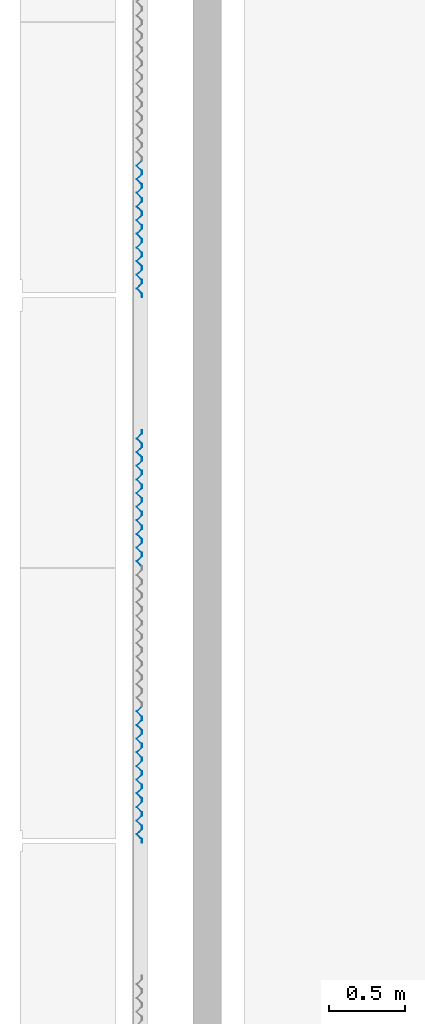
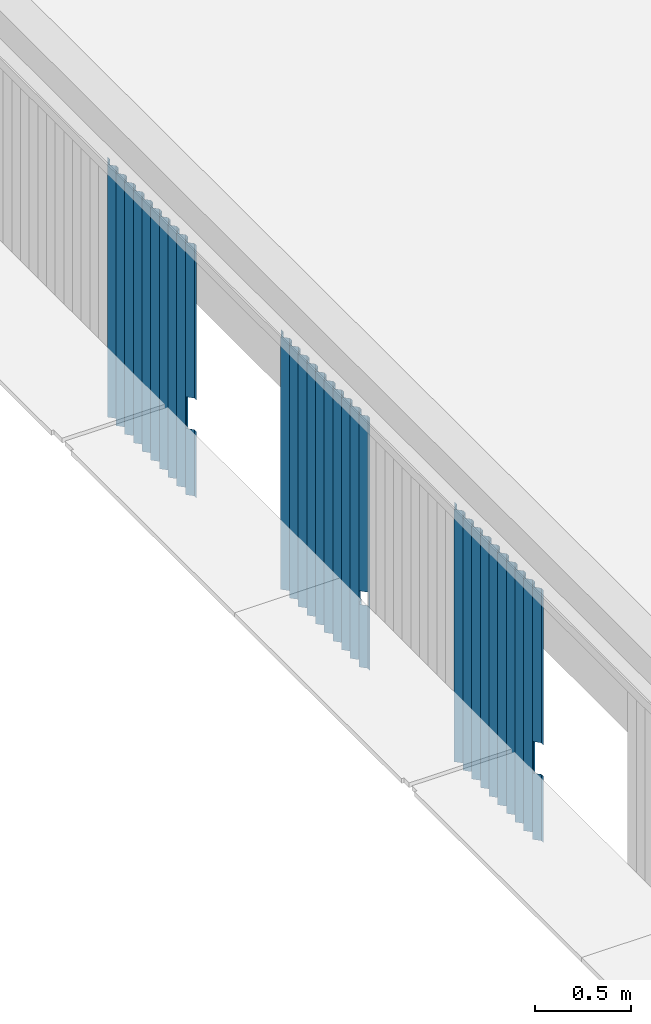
# One storey, part 20 of 37: 3 walls.
"""IFC4X3_ADD2 building model written with IfcOpenShell, lengths in millimetres."""

from ifc_helpers import new_model, si_unit, direction, frame, origin_with_axes, place, context, subcontext, project, spatial, polygons, element, save


model = new_model("IFC4X3_ADD2")

# Units and contexts
model_context = context("Model", 3, precision=1e-05, world=origin_with_axes(), true_north=direction((0.0, 1.0)))
body_context = subcontext(model_context, "Body", "Model", "MODEL_VIEW")
ifc_project = project(units=[si_unit("LENGTHUNIT", "METRE", prefix="MILLI"), si_unit("AREAUNIT", "SQUARE_METRE"), si_unit("VOLUMEUNIT", "CUBIC_METRE"), si_unit("PLANEANGLEUNIT", "RADIAN"), si_unit("TIMEUNIT", "SECOND"), si_unit("MASSUNIT", "GRAM")], contexts=[model_context])

# Site, building, storey
site_placement = place(None, origin_with_axes())
site = spatial("IfcSite", under=ifc_project, at=site_placement, Name="Site", CompositionType="ELEMENT")
building_placement = place(site_placement, origin_with_axes())
building = spatial("IfcBuilding", under=site, at=building_placement, Name="IFC Building Story")
storey_placement = place(building_placement, frame((0.0, 0.0, 14400.0), z_axis=(0.0, 0.0, 1.0), x_axis=(1.0, 0.0, 0.0)))
storey = spatial("IfcBuildingStorey", under=building, at=storey_placement, Name="040", Elevation=14400.0)

# Walls
wall_1_placement = place(storey_placement, frame((0.0, 0.0, -14400.0), z_axis=(0.0, 0.0, 1.0), x_axis=(1.0, 0.0, 0.0)))
element("IfcWall", 1, at=wall_1_placement, inside=storey, Name="BB_07.10_Gevelbekleding_PuntProfiel, 900 mm, console rechts_GMO:900 x 1600 mm", ObjectType="BB_07.10_Gevelbekleding_PuntProfiel, 900 mm, console rechts_GMO:900 x 1600 mm", PredefinedType="NOTDEFINED", context=body_context, shape_type="Tessellation", body=[
    polygons([(-45734.99999999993, 9090.00000000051, 14060.0), (-45733.58578643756, 9090.00000000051, 14060.0), (-45748.58578643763, 9075.000000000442, 14060.0), (-45715.0, 9041.414213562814, 14060.0), (-45715.00000000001, 9018.58578643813, 14060.0), (-45716.0, 9019.00000000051, 14060.0), (-45715.99999999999, 9041.000000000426, 14060.0), (-45750.0, 9075.000000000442, 14060.0), (-45734.99999999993, 9090.00000000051, 13860.0), (-45733.58578643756, 9090.00000000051, 13860.0), (-45750.00000000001, 9075.000000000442, 13860.0), (-45716.0, 9041.000000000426, 13860.0), (-45716.0, 9019.00000000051, 13860.0), (-45715.0, 9018.58578643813, 13860.0), (-45715.0, 9041.414213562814, 13860.0), (-45748.58578643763, 9075.000000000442, 13860.0), (-45716.0, 9851.000000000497, 15040.0), (-45716.0, 9829.000000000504, 15040.0), (-45750.0, 9795.000000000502, 15040.0), (-45716.0, 9761.000000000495, 15040.0), (-45716.0, 9739.000000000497, 15040.0), (-45750.0, 9705.000000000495, 15040.0), (-45716.0, 9671.000000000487, 15040.0), (-45716.0, 9649.000000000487, 15040.0), (-45750.00000000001, 9615.000000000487, 15040.0), (-45716.0, 9581.000000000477, 15040.0), (-45716.0, 9559.000000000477, 15040.0), (-45750.00000000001, 9525.000000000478, 15040.0), (-45716.0, 9491.000000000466, 15040.0), (-45716.0, 9469.000000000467, 15040.0), (-45750.00000000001, 9435.000000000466, 15040.0), (-45716.0, 9401.000000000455, 15040.0), (-45716.0, 9379.000000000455, 15040.0), (-45750.00000000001, 9345.000000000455, 15040.0), (-45716.0, 9311.000000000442, 15040.0), (-45716.0, 9289.000000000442, 15040.0), (-45750.00000000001, 9255.000000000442, 15040.0), (-45716.0, 9221.00000000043, 15040.0), (-45716.0, 9199.000000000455, 15040.0), (-45750.00000000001, 9165.000000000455, 15040.0), (-45716.0, 9131.00000000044, 15040.0), (-45716.0, 9109.000000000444, 15040.0), (-45750.00000000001, 9075.000000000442, 15040.0), (-45716.0, 9041.000000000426, 15040.0), (-45716.0, 9019.00000000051, 15040.0), (-45715.00000000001, 9018.58578643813, 15040.0), (-45715.00000000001, 9041.414213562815, 15040.0), (-45748.58578643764, 9075.000000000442, 15040.0), (-45715.00000000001, 9108.585786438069, 15040.0), (-45715.00000000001, 9131.414213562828, 15040.0), (-45748.58578643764, 9165.000000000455, 15040.0), (-45715.00000000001, 9198.585786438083, 15040.0), (-45715.00000000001, 9221.414213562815, 15040.0), (-45748.58578643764, 9255.000000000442, 15040.0), (-45715.00000000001, 9288.585786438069, 15040.0), (-45715.00000000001, 9311.414213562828, 15040.0), (-45748.58578643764, 9345.000000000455, 15040.0), (-45715.00000000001, 9378.585786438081, 15040.0), (-45715.00000000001, 9401.414213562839, 15040.0), (-45748.58578643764, 9435.000000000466, 15040.0), (-45715.00000000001, 9468.585786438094, 15040.0), (-45715.00000000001, 9491.41421356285, 15040.0), (-45748.58578643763, 9525.000000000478, 15040.0), (-45715.00000000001, 9558.585786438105, 15040.0), (-45715.00000000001, 9581.41421356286, 15040.0), (-45748.58578643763, 9615.000000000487, 15040.0), (-45715.00000000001, 9648.585786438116, 15040.0), (-45715.00000000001, 9671.414213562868, 15040.0), (-45748.58578643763, 9705.000000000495, 15040.0), (-45715.0, 9738.585786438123, 15040.0), (-45715.0, 9761.414213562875, 15040.0), (-45748.58578643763, 9795.000000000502, 15040.0), (-45715.0, 9828.585786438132, 15040.0), (-45715.0, 9851.414213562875, 15040.0), (-45748.58578643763, 9885.000000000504, 15040.0), (-45715.0, 9918.58578643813, 15040.0), (-45715.0, 9941.414213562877, 15040.0), (-45716.0, 9941.000000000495, 15040.0), (-45716.0, 9919.000000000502, 15040.0), (-45750.0, 9885.000000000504, 15040.0), (-45716.0, 9851.000000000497, 13440.0), (-45750.0, 9885.000000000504, 13440.0), (-45716.0, 9919.000000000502, 13440.0), (-45716.0, 9941.000000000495, 13440.0), (-45715.0, 9941.414213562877, 13440.0), (-45715.0, 9918.58578643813, 13440.0), (-45748.58578643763, 9885.000000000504, 13440.0), (-45715.0, 9851.414213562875, 13440.0), (-45715.0, 9828.585786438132, 13440.0), (-45748.58578643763, 9795.000000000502, 13440.0), (-45715.0, 9761.414213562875, 13440.0), (-45715.0, 9738.585786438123, 13440.0), (-45748.58578643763, 9705.000000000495, 13440.0), (-45715.00000000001, 9671.414213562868, 13440.0), (-45715.00000000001, 9648.585786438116, 13440.0), (-45748.58578643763, 9615.000000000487, 13440.0), (-45715.00000000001, 9581.41421356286, 13440.0), (-45715.00000000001, 9558.585786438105, 13440.0), (-45748.58578643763, 9525.000000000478, 13440.0), (-45715.00000000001, 9491.41421356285, 13440.0), (-45715.00000000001, 9468.585786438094, 13440.0), (-45748.58578643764, 9435.000000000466, 13440.0), (-45715.00000000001, 9401.414213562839, 13440.0), (-45715.00000000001, 9378.585786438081, 13440.0), (-45748.58578643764, 9345.000000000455, 13440.0), (-45715.00000000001, 9311.414213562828, 13440.0), (-45715.00000000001, 9288.585786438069, 13440.0), (-45748.58578643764, 9255.000000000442, 13440.0), (-45715.00000000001, 9221.414213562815, 13440.0), (-45715.00000000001, 9198.585786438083, 13440.0), (-45748.58578643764, 9165.000000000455, 13440.0), (-45715.00000000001, 9131.414213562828, 13440.0), (-45715.00000000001, 9108.585786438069, 13440.0), (-45748.58578643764, 9075.000000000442, 13440.0), (-45715.00000000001, 9041.414213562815, 13440.0), (-45715.00000000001, 9018.58578643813, 13440.0), (-45716.0, 9019.00000000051, 13440.0), (-45716.0, 9041.000000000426, 13440.0), (-45750.00000000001, 9075.000000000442, 13440.0), (-45716.0, 9109.000000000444, 13440.0), (-45716.0, 9131.00000000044, 13440.0), (-45750.00000000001, 9165.000000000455, 13440.0), (-45716.0, 9199.000000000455, 13440.0), (-45716.0, 9221.00000000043, 13440.0), (-45750.00000000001, 9255.000000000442, 13440.0), (-45716.0, 9289.000000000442, 13440.0), (-45716.0, 9311.000000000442, 13440.0), (-45750.00000000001, 9345.000000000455, 13440.0), (-45716.0, 9379.000000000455, 13440.0), (-45716.0, 9401.000000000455, 13440.0), (-45750.00000000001, 9435.000000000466, 13440.0), (-45716.0, 9469.000000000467, 13440.0), (-45716.0, 9491.000000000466, 13440.0), (-45750.00000000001, 9525.000000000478, 13440.0), (-45716.0, 9559.000000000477, 13440.0), (-45716.0, 9581.000000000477, 13440.0), (-45750.00000000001, 9615.000000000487, 13440.0), (-45716.0, 9649.000000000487, 13440.0), (-45716.0, 9671.000000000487, 13440.0), (-45750.0, 9705.000000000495, 13440.0), (-45716.0, 9739.000000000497, 13440.0), (-45716.0, 9761.000000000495, 13440.0), (-45750.0, 9795.000000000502, 13440.0), (-45716.0, 9829.000000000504, 13440.0)], [[[7, 8, 3]], [[7, 3, 4]], [[4, 5, 6]], [[4, 6, 7]], [[8, 1, 2]], [[8, 2, 3]], [[2, 1, 9, 10]], [[12, 13, 14]], [[12, 14, 15]], [[16, 10, 9]], [[16, 9, 11]], [[11, 12, 15]], [[11, 15, 16]], [[44, 45, 46]], [[44, 46, 47]], [[48, 49, 42]], [[48, 42, 43]], [[43, 44, 47]], [[43, 47, 48]], [[49, 50, 41]], [[49, 41, 42]], [[51, 52, 39]], [[51, 39, 40]], [[40, 41, 50]], [[40, 50, 51]], [[52, 53, 38]], [[52, 38, 39]], [[54, 55, 36]], [[54, 36, 37]], [[37, 38, 53]], [[37, 53, 54]], [[55, 56, 35]], [[55, 35, 36]], [[57, 58, 33]], [[57, 33, 34]], [[34, 35, 56]], [[34, 56, 57]], [[58, 59, 32]], [[58, 32, 33]], [[60, 61, 30]], [[60, 30, 31]], [[31, 32, 59]], [[31, 59, 60]], [[61, 62, 29]], [[61, 29, 30]], [[63, 64, 27]], [[63, 27, 28]], [[28, 29, 62]], [[28, 62, 63]], [[64, 65, 26]], [[64, 26, 27]], [[66, 67, 24]], [[66, 24, 25]], [[25, 26, 65]], [[25, 65, 66]], [[67, 68, 23]], [[67, 23, 24]], [[69, 70, 21]], [[69, 21, 22]], [[22, 23, 68]], [[22, 68, 69]], [[70, 71, 20]], [[70, 20, 21]], [[72, 73, 18]], [[72, 18, 19]], [[19, 20, 71]], [[19, 71, 72]], [[73, 74, 17]], [[73, 17, 18]], [[79, 80, 75]], [[79, 75, 76]], [[76, 77, 78]], [[76, 78, 79]], [[80, 17, 74]], [[80, 74, 75]], [[83, 84, 85]], [[83, 85, 86]], [[87, 88, 81]], [[87, 81, 82]], [[82, 83, 86]], [[82, 86, 87]], [[118, 119, 114]], [[118, 114, 115]], [[115, 116, 117]], [[115, 117, 118]], [[121, 122, 111]], [[121, 111, 112]], [[112, 113, 120]], [[112, 120, 121]], [[113, 114, 119]], [[113, 119, 120]], [[124, 125, 108]], [[124, 108, 109]], [[109, 110, 123]], [[109, 123, 124]], [[110, 111, 122]], [[110, 122, 123]], [[127, 128, 105]], [[127, 105, 106]], [[106, 107, 126]], [[106, 126, 127]], [[107, 108, 125]], [[107, 125, 126]], [[130, 131, 102]], [[130, 102, 103]], [[103, 104, 129]], [[103, 129, 130]], [[104, 105, 128]], [[104, 128, 129]], [[133, 134, 99]], [[133, 99, 100]], [[100, 101, 132]], [[100, 132, 133]], [[101, 102, 131]], [[101, 131, 132]], [[136, 137, 96]], [[136, 96, 97]], [[97, 98, 135]], [[97, 135, 136]], [[98, 99, 134]], [[98, 134, 135]], [[139, 140, 93]], [[139, 93, 94]], [[94, 95, 138]], [[94, 138, 139]], [[95, 96, 137]], [[95, 137, 138]], [[142, 143, 90]], [[142, 90, 91]], [[91, 92, 141]], [[91, 141, 142]], [[92, 93, 140]], [[92, 140, 141]], [[144, 81, 88]], [[144, 88, 89]], [[89, 90, 143]], [[89, 143, 144]], [[18, 17, 81, 144]], [[19, 18, 144, 143]], [[20, 19, 143, 142]], [[21, 20, 142, 141]], [[22, 21, 141, 140]], [[23, 22, 140, 139]], [[24, 23, 139, 138]], [[25, 24, 138, 137]], [[26, 25, 137, 136]], [[27, 26, 136, 135]], [[28, 27, 135, 134]], [[29, 28, 134, 133]], [[30, 29, 133, 132]], [[31, 30, 132, 131]], [[32, 31, 131, 130]], [[33, 32, 130, 129]], [[34, 33, 129, 128]], [[35, 34, 128, 127]], [[36, 35, 127, 126]], [[37, 36, 126, 125]], [[38, 37, 125, 124]], [[54, 53, 109, 108]], [[55, 54, 108, 107]], [[56, 55, 107, 106]], [[57, 56, 106, 105]], [[58, 57, 105, 104]], [[59, 58, 104, 103]], [[60, 59, 103, 102]], [[61, 60, 102, 101]], [[62, 61, 101, 100]], [[63, 62, 100, 99]], [[64, 63, 99, 98]], [[65, 64, 98, 97]], [[66, 65, 97, 96]], [[67, 66, 96, 95]], [[68, 67, 95, 94]], [[69, 68, 94, 93]], [[70, 69, 93, 92]], [[71, 70, 92, 91]], [[72, 71, 91, 90]], [[73, 72, 90, 89]], [[74, 73, 89, 88]], [[80, 79, 83, 82]], [[17, 80, 82, 81]], [[39, 38, 124, 123]], [[40, 39, 123, 122]], [[41, 40, 122, 121]], [[42, 41, 121, 120]], [[1, 8, 43]], [[1, 43, 42]], [[42, 9, 1]], [[42, 120, 9]], [[120, 119, 11]], [[120, 11, 9]], [[44, 43, 8, 7]], [[45, 44, 7, 6]], [[47, 46, 5, 4]], [[48, 47, 4, 3]], [[10, 16, 114]], [[10, 114, 113]], [[113, 2, 10]], [[2, 113, 49]], [[49, 48, 2]], [[48, 3, 2]], [[50, 49, 113, 112]], [[51, 50, 112, 111]], [[52, 51, 111, 110]], [[53, 52, 110, 109]], [[75, 74, 88, 87]], [[76, 75, 87, 86]], [[46, 45, 6, 5]], [[77, 76, 86, 85]], [[78, 77, 85, 84]], [[79, 78, 84, 83]], [[117, 116, 14, 13]], [[115, 114, 16, 15]], [[116, 115, 15, 14]], [[118, 117, 13, 12]], [[119, 118, 12, 11]]]),
])
wall_2_placement = place(storey_placement, frame((0.0, 0.0, -14400.0), z_axis=(0.0, 0.0, 1.0), x_axis=(1.0, 0.0, 0.0)))
element("IfcWall", 2, at=wall_2_placement, inside=storey, Name="BB_07.10_Gevelbekleding_PuntProfiel, 900 mm, vol_GMO:900 x 1600 mm", ObjectType="BB_07.10_Gevelbekleding_PuntProfiel, 900 mm, vol_GMO:900 x 1600 mm", PredefinedType="NOTDEFINED", context=body_context, shape_type="Tessellation", body=[
    polygons([(-45715.99999999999, 11651.00000000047, 15040.0), (-45715.99999999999, 11629.00000000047, 15040.0), (-45749.99999999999, 11595.00000000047, 15040.0), (-45715.99999999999, 11561.00000000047, 15040.0), (-45715.99999999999, 11539.00000000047, 15040.0), (-45749.99999999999, 11505.00000000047, 15040.0), (-45715.99999999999, 11471.00000000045, 15040.0), (-45715.99999999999, 11449.00000000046, 15040.0), (-45750.0, 11415.00000000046, 15040.0), (-45715.99999999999, 11381.00000000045, 15040.0), (-45715.99999999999, 11359.00000000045, 15040.0), (-45750.0, 11325.00000000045, 15040.0), (-45715.99999999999, 11291.00000000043, 15040.0), (-45715.99999999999, 11269.00000000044, 15040.0), (-45750.0, 11235.00000000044, 15040.0), (-45715.99999999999, 11201.00000000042, 15040.0), (-45715.99999999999, 11179.00000000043, 15040.0), (-45750.0, 11145.00000000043, 15040.0), (-45715.99999999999, 11111.00000000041, 15040.0), (-45715.99999999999, 11089.00000000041, 15040.0), (-45750.0, 11055.00000000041, 15040.0), (-45715.99999999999, 11021.0000000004, 15040.0), (-45715.99999999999, 10999.00000000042, 15040.0), (-45750.0, 10965.00000000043, 15040.0), (-45715.99999999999, 10931.00000000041, 15040.0), (-45715.99999999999, 10909.00000000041, 15040.0), (-45750.0, 10875.00000000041, 15040.0), (-45715.99999999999, 10841.0000000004, 15040.0), (-45715.99999999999, 10819.00000000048, 15040.0), (-45715.0, 10818.5857864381, 15040.0), (-45715.0, 10841.41421356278, 15040.0), (-45748.58578643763, 10875.00000000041, 15040.0), (-45715.0, 10908.58578643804, 15040.0), (-45715.0, 10931.4142135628, 15040.0), (-45748.58578643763, 10965.00000000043, 15040.0), (-45715.0, 10998.58578643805, 15040.0), (-45715.0, 11021.41421356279, 15040.0), (-45748.58578643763, 11055.00000000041, 15040.0), (-45715.0, 11088.58578643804, 15040.0), (-45715.0, 11111.4142135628, 15040.0), (-45748.58578643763, 11145.00000000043, 15040.0), (-45715.0, 11178.58578643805, 15040.0), (-45715.0, 11201.41421356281, 15040.0), (-45748.58578643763, 11235.00000000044, 15040.0), (-45715.0, 11268.58578643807, 15040.0), (-45715.0, 11291.41421356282, 15040.0), (-45748.58578643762, 11325.00000000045, 15040.0), (-45715.0, 11358.58578643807, 15040.0), (-45715.0, 11381.41421356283, 15040.0), (-45748.58578643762, 11415.00000000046, 15040.0), (-45715.0, 11448.58578643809, 15040.0), (-45715.0, 11471.41421356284, 15040.0), (-45748.58578643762, 11505.00000000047, 15040.0), (-45714.99999999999, 11538.58578643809, 15040.0), (-45714.99999999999, 11561.41421356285, 15040.0), (-45748.58578643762, 11595.00000000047, 15040.0), (-45714.99999999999, 11628.5857864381, 15040.0), (-45714.99999999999, 11651.41421356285, 15040.0), (-45748.58578643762, 11685.00000000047, 15040.0), (-45714.99999999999, 11718.5857864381, 15040.0), (-45714.99999999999, 11741.41421356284, 15040.0), (-45715.99999999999, 11741.00000000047, 15040.0), (-45715.99999999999, 11719.00000000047, 15040.0), (-45749.99999999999, 11685.00000000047, 15040.0), (-45715.99999999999, 11651.00000000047, 13440.0), (-45749.99999999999, 11685.00000000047, 13440.0), (-45715.99999999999, 11719.00000000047, 13440.0), (-45715.99999999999, 11741.00000000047, 13440.0), (-45714.99999999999, 11741.41421356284, 13440.0), (-45714.99999999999, 11718.5857864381, 13440.0), (-45748.58578643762, 11685.00000000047, 13440.0), (-45714.99999999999, 11651.41421356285, 13440.0), (-45714.99999999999, 11628.5857864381, 13440.0), (-45748.58578643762, 11595.00000000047, 13440.0), (-45714.99999999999, 11561.41421356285, 13440.0), (-45714.99999999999, 11538.58578643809, 13440.0), (-45748.58578643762, 11505.00000000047, 13440.0), (-45715.0, 11471.41421356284, 13440.0), (-45715.0, 11448.58578643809, 13440.0), (-45748.58578643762, 11415.00000000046, 13440.0), (-45715.0, 11381.41421356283, 13440.0), (-45715.0, 11358.58578643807, 13440.0), (-45748.58578643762, 11325.00000000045, 13440.0), (-45715.0, 11291.41421356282, 13440.0), (-45715.0, 11268.58578643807, 13440.0), (-45748.58578643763, 11235.00000000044, 13440.0), (-45715.0, 11201.41421356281, 13440.0), (-45715.0, 11178.58578643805, 13440.0), (-45748.58578643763, 11145.00000000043, 13440.0), (-45715.0, 11111.4142135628, 13440.0), (-45715.0, 11088.58578643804, 13440.0), (-45748.58578643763, 11055.00000000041, 13440.0), (-45715.0, 11021.41421356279, 13440.0), (-45715.0, 10998.58578643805, 13440.0), (-45748.58578643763, 10965.00000000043, 13440.0), (-45715.0, 10931.4142135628, 13440.0), (-45715.0, 10908.58578643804, 13440.0), (-45748.58578643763, 10875.00000000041, 13440.0), (-45715.0, 10841.41421356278, 13440.0), (-45715.0, 10818.5857864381, 13440.0), (-45715.99999999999, 10819.00000000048, 13440.0), (-45715.99999999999, 10841.0000000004, 13440.0), (-45750.0, 10875.00000000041, 13440.0), (-45715.99999999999, 10909.00000000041, 13440.0), (-45715.99999999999, 10931.00000000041, 13440.0), (-45750.0, 10965.00000000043, 13440.0), (-45715.99999999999, 10999.00000000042, 13440.0), (-45715.99999999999, 11021.0000000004, 13440.0), (-45750.0, 11055.00000000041, 13440.0), (-45715.99999999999, 11089.00000000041, 13440.0), (-45715.99999999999, 11111.00000000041, 13440.0), (-45750.0, 11145.00000000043, 13440.0), (-45715.99999999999, 11179.00000000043, 13440.0), (-45715.99999999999, 11201.00000000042, 13440.0), (-45750.0, 11235.00000000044, 13440.0), (-45715.99999999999, 11269.00000000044, 13440.0), (-45715.99999999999, 11291.00000000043, 13440.0), (-45750.0, 11325.00000000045, 13440.0), (-45715.99999999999, 11359.00000000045, 13440.0), (-45715.99999999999, 11381.00000000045, 13440.0), (-45750.0, 11415.00000000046, 13440.0), (-45715.99999999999, 11449.00000000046, 13440.0), (-45715.99999999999, 11471.00000000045, 13440.0), (-45749.99999999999, 11505.00000000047, 13440.0), (-45715.99999999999, 11539.00000000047, 13440.0), (-45715.99999999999, 11561.00000000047, 13440.0), (-45749.99999999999, 11595.00000000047, 13440.0), (-45715.99999999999, 11629.00000000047, 13440.0), (-45715.99999999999, 10909.00000000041, 13837.50000000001), (-45715.99999999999, 10917.5000000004, 13837.50000000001), (-45715.99999999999, 10917.5000000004, 13922.50000000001), (-45715.99999999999, 10909.00000000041, 13922.50000000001), (-45750.0, 10875.00000000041, 13922.50000000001), (-45715.99999999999, 10841.0000000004, 13922.50000000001), (-45715.99999999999, 10832.5000000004, 13922.50000000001), (-45715.99999999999, 10832.5000000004, 13837.50000000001), (-45715.99999999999, 10841.0000000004, 13837.50000000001), (-45714.99999999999, 10841.41421356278, 13837.50000000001), (-45714.99999999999, 10832.5000000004, 13837.50000000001), (-45714.99999999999, 10832.5000000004, 13922.50000000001), (-45714.99999999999, 10841.41421356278, 13922.50000000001), (-45748.58578643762, 10875.00000000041, 13922.50000000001), (-45714.99999999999, 10908.58578643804, 13922.50000000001), (-45714.99999999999, 10917.5000000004, 13922.50000000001), (-45714.99999999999, 10917.5000000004, 13837.50000000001), (-45714.99999999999, 10908.58578643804, 13837.50000000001), (-45748.58578643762, 10875.00000000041, 13837.50000000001), (-45750.0, 10875.00000000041, 13837.50000000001)], [[[28, 29, 30]], [[28, 30, 31]], [[32, 33, 26]], [[32, 26, 27]], [[27, 28, 31]], [[27, 31, 32]], [[33, 34, 25]], [[33, 25, 26]], [[35, 36, 23]], [[35, 23, 24]], [[24, 25, 34]], [[24, 34, 35]], [[36, 37, 22]], [[36, 22, 23]], [[38, 39, 20]], [[38, 20, 21]], [[21, 22, 37]], [[21, 37, 38]], [[39, 40, 19]], [[39, 19, 20]], [[41, 42, 17]], [[41, 17, 18]], [[18, 19, 40]], [[18, 40, 41]], [[42, 43, 16]], [[42, 16, 17]], [[44, 45, 14]], [[44, 14, 15]], [[15, 16, 43]], [[15, 43, 44]], [[45, 46, 13]], [[45, 13, 14]], [[47, 48, 11]], [[47, 11, 12]], [[12, 13, 46]], [[12, 46, 47]], [[48, 49, 10]], [[48, 10, 11]], [[50, 51, 8]], [[50, 8, 9]], [[9, 10, 49]], [[9, 49, 50]], [[51, 52, 7]], [[51, 7, 8]], [[53, 54, 5]], [[53, 5, 6]], [[6, 7, 52]], [[6, 52, 53]], [[54, 55, 4]], [[54, 4, 5]], [[56, 57, 2]], [[56, 2, 3]], [[3, 4, 55]], [[3, 55, 56]], [[57, 58, 1]], [[57, 1, 2]], [[63, 64, 59]], [[63, 59, 60]], [[60, 61, 62]], [[60, 62, 63]], [[64, 1, 58]], [[64, 58, 59]], [[67, 68, 69]], [[67, 69, 70]], [[71, 72, 65]], [[71, 65, 66]], [[66, 67, 70]], [[66, 70, 71]], [[102, 103, 98]], [[102, 98, 99]], [[99, 100, 101]], [[99, 101, 102]], [[105, 106, 95]], [[105, 95, 96]], [[96, 97, 104]], [[96, 104, 105]], [[97, 98, 103]], [[97, 103, 104]], [[108, 109, 92]], [[108, 92, 93]], [[93, 94, 107]], [[93, 107, 108]], [[94, 95, 106]], [[94, 106, 107]], [[111, 112, 89]], [[111, 89, 90]], [[90, 91, 110]], [[90, 110, 111]], [[91, 92, 109]], [[91, 109, 110]], [[114, 115, 86]], [[114, 86, 87]], [[87, 88, 113]], [[87, 113, 114]], [[88, 89, 112]], [[88, 112, 113]], [[117, 118, 83]], [[117, 83, 84]], [[84, 85, 116]], [[84, 116, 117]], [[85, 86, 115]], [[85, 115, 116]], [[120, 121, 80]], [[120, 80, 81]], [[81, 82, 119]], [[81, 119, 120]], [[82, 83, 118]], [[82, 118, 119]], [[123, 124, 77]], [[123, 77, 78]], [[78, 79, 122]], [[78, 122, 123]], [[79, 80, 121]], [[79, 121, 122]], [[126, 127, 74]], [[126, 74, 75]], [[75, 76, 125]], [[75, 125, 126]], [[76, 77, 124]], [[76, 124, 125]], [[128, 65, 72]], [[128, 72, 73]], [[73, 74, 127]], [[73, 127, 128]], [[2, 1, 65, 128]], [[3, 2, 128, 127]], [[4, 3, 127, 126]], [[5, 4, 126, 125]], [[6, 5, 125, 124]], [[7, 6, 124, 123]], [[8, 7, 123, 122]], [[9, 8, 122, 121]], [[10, 9, 121, 120]], [[11, 10, 120, 119]], [[12, 11, 119, 118]], [[13, 12, 118, 117]], [[14, 13, 117, 116]], [[15, 14, 116, 115]], [[16, 15, 115, 114]], [[17, 16, 114, 113]], [[18, 17, 113, 112]], [[19, 18, 112, 111]], [[20, 19, 111, 110]], [[21, 20, 110, 109]], [[22, 21, 109, 108]], [[38, 37, 93, 92]], [[39, 38, 92, 91]], [[40, 39, 91, 90]], [[41, 40, 90, 89]], [[42, 41, 89, 88]], [[43, 42, 88, 87]], [[44, 43, 87, 86]], [[45, 44, 86, 85]], [[46, 45, 85, 84]], [[47, 46, 84, 83]], [[48, 47, 83, 82]], [[49, 48, 82, 81]], [[50, 49, 81, 80]], [[51, 50, 80, 79]], [[52, 51, 79, 78]], [[53, 52, 78, 77]], [[54, 53, 77, 76]], [[55, 54, 76, 75]], [[56, 55, 75, 74]], [[57, 56, 74, 73]], [[58, 57, 73, 72]], [[64, 63, 67, 66]], [[1, 64, 66, 65]], [[23, 22, 108, 107]], [[24, 23, 107, 106]], [[25, 24, 106, 105]], [[131, 132, 26]], [[131, 26, 25]], [[25, 130, 131]], [[25, 105, 130]], [[105, 104, 129]], [[105, 129, 130]], [[27, 26, 132, 133]], [[28, 27, 133, 134]], [[136, 137, 102]], [[136, 102, 101]], [[101, 135, 136]], [[135, 101, 29]], [[29, 28, 135]], [[28, 134, 135]], [[140, 141, 31]], [[140, 31, 30]], [[30, 139, 140]], [[30, 100, 139]], [[100, 99, 138]], [[100, 138, 139]], [[32, 31, 141, 142]], [[33, 32, 142, 143]], [[145, 146, 97]], [[145, 97, 96]], [[96, 144, 145]], [[144, 96, 34]], [[34, 33, 144]], [[33, 143, 144]], [[35, 34, 96, 95]], [[36, 35, 95, 94]], [[37, 36, 94, 93]], [[59, 58, 72, 71]], [[60, 59, 71, 70]], [[30, 29, 101, 100]], [[61, 60, 70, 69]], [[62, 61, 69, 68]], [[63, 62, 68, 67]], [[139, 136, 135, 140]], [[132, 131, 144]], [[132, 144, 143]], [[142, 141, 134]], [[142, 134, 133]], [[133, 132, 143]], [[133, 143, 142]], [[141, 140, 135]], [[141, 135, 134]], [[144, 131, 130, 145]], [[129, 148, 147]], [[129, 147, 146]], [[146, 145, 130]], [[146, 130, 129]], [[137, 136, 139]], [[137, 139, 138]], [[138, 147, 148]], [[138, 148, 137]], [[98, 97, 146, 147]], [[99, 98, 147, 138]], [[103, 102, 137, 148]], [[104, 103, 148, 129]]]),
])
wall_3_placement = place(storey_placement, frame((0.0, 0.0, -14400.0), z_axis=(0.0, 0.0, 1.0), x_axis=(1.0, 0.0, 0.0)))
element("IfcWall", 3, at=wall_3_placement, inside=storey, Name="BB_07.10_Gevelbekleding_PuntProfiel, 900 mm, console rechts_GMO:900 x 1600 mm", ObjectType="BB_07.10_Gevelbekleding_PuntProfiel, 900 mm, console rechts_GMO:900 x 1600 mm", PredefinedType="NOTDEFINED", context=body_context, shape_type="Tessellation", body=[
    polygons([(-45734.99999999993, 12690.00000000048, 14060.0), (-45733.58578643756, 12690.00000000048, 14060.0), (-45748.58578643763, 12675.00000000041, 14060.0), (-45715.0, 12641.41421356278, 14060.0), (-45715.00000000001, 12618.5857864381, 14060.0), (-45716.0, 12619.00000000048, 14060.0), (-45715.99999999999, 12641.0000000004, 14060.0), (-45750.0, 12675.00000000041, 14060.0), (-45734.99999999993, 12690.00000000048, 13860.0), (-45733.58578643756, 12690.00000000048, 13860.0), (-45750.00000000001, 12675.00000000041, 13860.0), (-45716.0, 12641.0000000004, 13860.0), (-45716.0, 12619.00000000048, 13860.0), (-45715.0, 12618.5857864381, 13860.0), (-45715.0, 12641.41421356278, 13860.0), (-45748.58578643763, 12675.00000000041, 13860.0), (-45716.0, 13451.00000000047, 15040.0), (-45716.0, 13429.00000000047, 15040.0), (-45750.0, 13395.00000000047, 15040.0), (-45716.0, 13361.00000000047, 15040.0), (-45716.0, 13339.00000000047, 15040.0), (-45750.0, 13305.00000000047, 15040.0), (-45716.0, 13271.00000000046, 15040.0), (-45716.0, 13249.00000000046, 15040.0), (-45750.00000000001, 13215.00000000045, 15040.0), (-45716.0, 13181.00000000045, 15040.0), (-45716.0, 13159.00000000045, 15040.0), (-45750.00000000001, 13125.00000000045, 15040.0), (-45716.0, 13091.00000000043, 15040.0), (-45716.0, 13069.00000000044, 15040.0), (-45750.00000000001, 13035.00000000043, 15040.0), (-45716.0, 13001.00000000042, 15040.0), (-45716.0, 12979.00000000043, 15040.0), (-45750.00000000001, 12945.00000000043, 15040.0), (-45716.0, 12911.00000000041, 15040.0), (-45716.0, 12889.00000000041, 15040.0), (-45750.00000000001, 12855.00000000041, 15040.0), (-45716.0, 12821.0000000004, 15040.0), (-45716.0, 12799.00000000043, 15040.0), (-45750.00000000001, 12765.00000000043, 15040.0), (-45716.0, 12731.00000000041, 15040.0), (-45716.0, 12709.00000000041, 15040.0), (-45750.00000000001, 12675.00000000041, 15040.0), (-45716.0, 12641.0000000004, 15040.0), (-45716.0, 12619.00000000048, 15040.0), (-45715.00000000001, 12618.5857864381, 15040.0), (-45715.00000000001, 12641.41421356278, 15040.0), (-45748.58578643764, 12675.00000000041, 15040.0), (-45715.00000000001, 12708.58578643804, 15040.0), (-45715.00000000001, 12731.4142135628, 15040.0), (-45748.58578643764, 12765.00000000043, 15040.0), (-45715.00000000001, 12798.58578643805, 15040.0), (-45715.00000000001, 12821.41421356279, 15040.0), (-45748.58578643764, 12855.00000000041, 15040.0), (-45715.00000000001, 12888.58578643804, 15040.0), (-45715.00000000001, 12911.4142135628, 15040.0), (-45748.58578643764, 12945.00000000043, 15040.0), (-45715.00000000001, 12978.58578643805, 15040.0), (-45715.00000000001, 13001.41421356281, 15040.0), (-45748.58578643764, 13035.00000000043, 15040.0), (-45715.00000000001, 13068.58578643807, 15040.0), (-45715.00000000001, 13091.41421356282, 15040.0), (-45748.58578643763, 13125.00000000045, 15040.0), (-45715.00000000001, 13158.58578643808, 15040.0), (-45715.00000000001, 13181.41421356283, 15040.0), (-45748.58578643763, 13215.00000000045, 15040.0), (-45715.00000000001, 13248.58578643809, 15040.0), (-45715.00000000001, 13271.41421356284, 15040.0), (-45748.58578643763, 13305.00000000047, 15040.0), (-45715.0, 13338.58578643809, 15040.0), (-45715.0, 13361.41421356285, 15040.0), (-45748.58578643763, 13395.00000000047, 15040.0), (-45715.0, 13428.5857864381, 15040.0), (-45715.0, 13451.41421356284, 15040.0), (-45748.58578643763, 13485.00000000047, 15040.0), (-45715.0, 13518.5857864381, 15040.0), (-45715.0, 13541.41421356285, 15040.0), (-45716.0, 13541.00000000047, 15040.0), (-45716.0, 13519.00000000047, 15040.0), (-45750.0, 13485.00000000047, 15040.0), (-45716.0, 13451.00000000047, 13440.0), (-45750.0, 13485.00000000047, 13440.0), (-45716.0, 13519.00000000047, 13440.0), (-45716.0, 13541.00000000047, 13440.0), (-45715.0, 13541.41421356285, 13440.0), (-45715.0, 13518.5857864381, 13440.0), (-45748.58578643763, 13485.00000000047, 13440.0), (-45715.0, 13451.41421356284, 13440.0), (-45715.0, 13428.5857864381, 13440.0), (-45748.58578643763, 13395.00000000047, 13440.0), (-45715.0, 13361.41421356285, 13440.0), (-45715.0, 13338.58578643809, 13440.0), (-45748.58578643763, 13305.00000000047, 13440.0), (-45715.00000000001, 13271.41421356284, 13440.0), (-45715.00000000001, 13248.58578643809, 13440.0), (-45748.58578643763, 13215.00000000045, 13440.0), (-45715.00000000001, 13181.41421356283, 13440.0), (-45715.00000000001, 13158.58578643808, 13440.0), (-45748.58578643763, 13125.00000000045, 13440.0), (-45715.00000000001, 13091.41421356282, 13440.0), (-45715.00000000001, 13068.58578643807, 13440.0), (-45748.58578643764, 13035.00000000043, 13440.0), (-45715.00000000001, 13001.41421356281, 13440.0), (-45715.00000000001, 12978.58578643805, 13440.0), (-45748.58578643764, 12945.00000000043, 13440.0), (-45715.00000000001, 12911.4142135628, 13440.0), (-45715.00000000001, 12888.58578643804, 13440.0), (-45748.58578643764, 12855.00000000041, 13440.0), (-45715.00000000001, 12821.41421356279, 13440.0), (-45715.00000000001, 12798.58578643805, 13440.0), (-45748.58578643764, 12765.00000000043, 13440.0), (-45715.00000000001, 12731.4142135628, 13440.0), (-45715.00000000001, 12708.58578643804, 13440.0), (-45748.58578643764, 12675.00000000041, 13440.0), (-45715.00000000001, 12641.41421356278, 13440.0), (-45715.00000000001, 12618.5857864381, 13440.0), (-45716.0, 12619.00000000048, 13440.0), (-45716.0, 12641.0000000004, 13440.0), (-45750.00000000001, 12675.00000000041, 13440.0), (-45716.0, 12709.00000000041, 13440.0), (-45716.0, 12731.00000000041, 13440.0), (-45750.00000000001, 12765.00000000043, 13440.0), (-45716.0, 12799.00000000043, 13440.0), (-45716.0, 12821.0000000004, 13440.0), (-45750.00000000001, 12855.00000000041, 13440.0), (-45716.0, 12889.00000000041, 13440.0), (-45716.0, 12911.00000000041, 13440.0), (-45750.00000000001, 12945.00000000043, 13440.0), (-45716.0, 12979.00000000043, 13440.0), (-45716.0, 13001.00000000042, 13440.0), (-45750.00000000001, 13035.00000000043, 13440.0), (-45716.0, 13069.00000000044, 13440.0), (-45716.0, 13091.00000000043, 13440.0), (-45750.00000000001, 13125.00000000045, 13440.0), (-45716.0, 13159.00000000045, 13440.0), (-45716.0, 13181.00000000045, 13440.0), (-45750.00000000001, 13215.00000000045, 13440.0), (-45716.0, 13249.00000000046, 13440.0), (-45716.0, 13271.00000000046, 13440.0), (-45750.0, 13305.00000000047, 13440.0), (-45716.0, 13339.00000000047, 13440.0), (-45716.0, 13361.00000000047, 13440.0), (-45750.0, 13395.00000000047, 13440.0), (-45716.0, 13429.00000000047, 13440.0)], [[[7, 8, 3]], [[7, 3, 4]], [[4, 5, 6]], [[4, 6, 7]], [[8, 1, 2]], [[8, 2, 3]], [[2, 1, 9, 10]], [[12, 13, 14]], [[12, 14, 15]], [[16, 10, 9]], [[16, 9, 11]], [[11, 12, 15]], [[11, 15, 16]], [[44, 45, 46]], [[44, 46, 47]], [[48, 49, 42]], [[48, 42, 43]], [[43, 44, 47]], [[43, 47, 48]], [[49, 50, 41]], [[49, 41, 42]], [[51, 52, 39]], [[51, 39, 40]], [[40, 41, 50]], [[40, 50, 51]], [[52, 53, 38]], [[52, 38, 39]], [[54, 55, 36]], [[54, 36, 37]], [[37, 38, 53]], [[37, 53, 54]], [[55, 56, 35]], [[55, 35, 36]], [[57, 58, 33]], [[57, 33, 34]], [[34, 35, 56]], [[34, 56, 57]], [[58, 59, 32]], [[58, 32, 33]], [[60, 61, 30]], [[60, 30, 31]], [[31, 32, 59]], [[31, 59, 60]], [[61, 62, 29]], [[61, 29, 30]], [[63, 64, 27]], [[63, 27, 28]], [[28, 29, 62]], [[28, 62, 63]], [[64, 65, 26]], [[64, 26, 27]], [[66, 67, 24]], [[66, 24, 25]], [[25, 26, 65]], [[25, 65, 66]], [[67, 68, 23]], [[67, 23, 24]], [[69, 70, 21]], [[69, 21, 22]], [[22, 23, 68]], [[22, 68, 69]], [[70, 71, 20]], [[70, 20, 21]], [[72, 73, 18]], [[72, 18, 19]], [[19, 20, 71]], [[19, 71, 72]], [[73, 74, 17]], [[73, 17, 18]], [[79, 80, 75]], [[79, 75, 76]], [[76, 77, 78]], [[76, 78, 79]], [[80, 17, 74]], [[80, 74, 75]], [[83, 84, 85]], [[83, 85, 86]], [[87, 88, 81]], [[87, 81, 82]], [[82, 83, 86]], [[82, 86, 87]], [[118, 119, 114]], [[118, 114, 115]], [[115, 116, 117]], [[115, 117, 118]], [[121, 122, 111]], [[121, 111, 112]], [[112, 113, 120]], [[112, 120, 121]], [[113, 114, 119]], [[113, 119, 120]], [[124, 125, 108]], [[124, 108, 109]], [[109, 110, 123]], [[109, 123, 124]], [[110, 111, 122]], [[110, 122, 123]], [[127, 128, 105]], [[127, 105, 106]], [[106, 107, 126]], [[106, 126, 127]], [[107, 108, 125]], [[107, 125, 126]], [[130, 131, 102]], [[130, 102, 103]], [[103, 104, 129]], [[103, 129, 130]], [[104, 105, 128]], [[104, 128, 129]], [[133, 134, 99]], [[133, 99, 100]], [[100, 101, 132]], [[100, 132, 133]], [[101, 102, 131]], [[101, 131, 132]], [[136, 137, 96]], [[136, 96, 97]], [[97, 98, 135]], [[97, 135, 136]], [[98, 99, 134]], [[98, 134, 135]], [[139, 140, 93]], [[139, 93, 94]], [[94, 95, 138]], [[94, 138, 139]], [[95, 96, 137]], [[95, 137, 138]], [[142, 143, 90]], [[142, 90, 91]], [[91, 92, 141]], [[91, 141, 142]], [[92, 93, 140]], [[92, 140, 141]], [[144, 81, 88]], [[144, 88, 89]], [[89, 90, 143]], [[89, 143, 144]], [[18, 17, 81, 144]], [[19, 18, 144, 143]], [[20, 19, 143, 142]], [[21, 20, 142, 141]], [[22, 21, 141, 140]], [[23, 22, 140, 139]], [[24, 23, 139, 138]], [[25, 24, 138, 137]], [[26, 25, 137, 136]], [[27, 26, 136, 135]], [[28, 27, 135, 134]], [[29, 28, 134, 133]], [[30, 29, 133, 132]], [[31, 30, 132, 131]], [[32, 31, 131, 130]], [[33, 32, 130, 129]], [[34, 33, 129, 128]], [[35, 34, 128, 127]], [[36, 35, 127, 126]], [[37, 36, 126, 125]], [[38, 37, 125, 124]], [[54, 53, 109, 108]], [[55, 54, 108, 107]], [[56, 55, 107, 106]], [[57, 56, 106, 105]], [[58, 57, 105, 104]], [[59, 58, 104, 103]], [[60, 59, 103, 102]], [[61, 60, 102, 101]], [[62, 61, 101, 100]], [[63, 62, 100, 99]], [[64, 63, 99, 98]], [[65, 64, 98, 97]], [[66, 65, 97, 96]], [[67, 66, 96, 95]], [[68, 67, 95, 94]], [[69, 68, 94, 93]], [[70, 69, 93, 92]], [[71, 70, 92, 91]], [[72, 71, 91, 90]], [[73, 72, 90, 89]], [[74, 73, 89, 88]], [[80, 79, 83, 82]], [[17, 80, 82, 81]], [[39, 38, 124, 123]], [[40, 39, 123, 122]], [[41, 40, 122, 121]], [[42, 41, 121, 120]], [[1, 8, 43]], [[1, 43, 42]], [[42, 9, 1]], [[42, 120, 9]], [[120, 119, 11]], [[120, 11, 9]], [[44, 43, 8, 7]], [[45, 44, 7, 6]], [[47, 46, 5, 4]], [[48, 47, 4, 3]], [[10, 16, 114]], [[10, 114, 113]], [[113, 2, 10]], [[2, 113, 49]], [[49, 48, 2]], [[48, 3, 2]], [[50, 49, 113, 112]], [[51, 50, 112, 111]], [[52, 51, 111, 110]], [[53, 52, 110, 109]], [[75, 74, 88, 87]], [[76, 75, 87, 86]], [[46, 45, 6, 5]], [[77, 76, 86, 85]], [[78, 77, 85, 84]], [[79, 78, 84, 83]], [[117, 116, 14, 13]], [[115, 114, 16, 15]], [[116, 115, 15, 14]], [[118, 117, 13, 12]], [[119, 118, 12, 11]]]),
])

save(model, "model.ifc")
